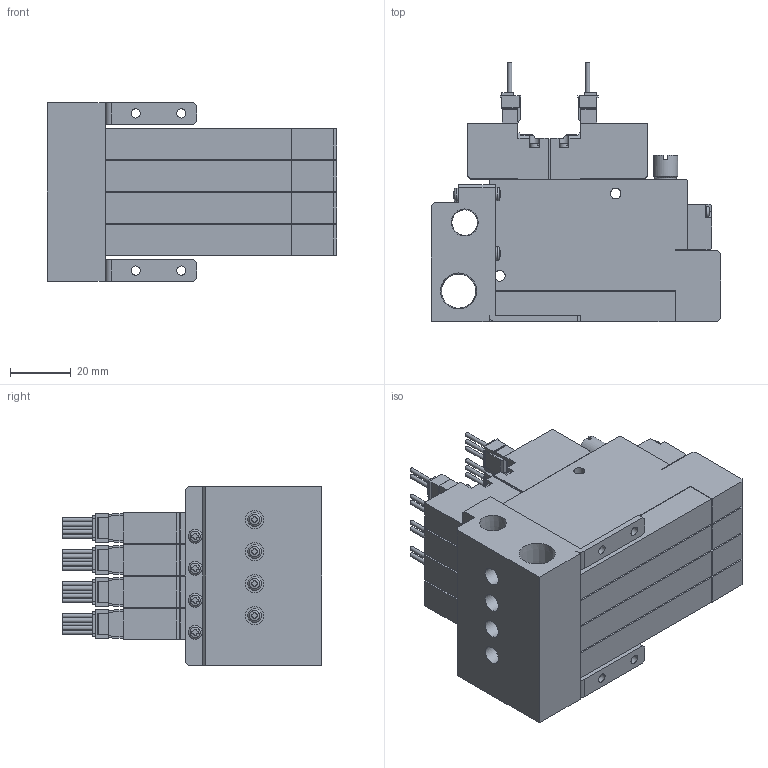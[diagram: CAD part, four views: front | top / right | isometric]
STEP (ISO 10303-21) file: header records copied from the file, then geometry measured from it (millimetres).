
FILE_DESCRIPTION(('STEP AP203'),'1');
FILE_NAME('ZZC5WC404_3D.stp','2024-09-04T13:55:49',(' '),(' '),'Spatial InterOp 3D',' ',' ');
FILE_SCHEMA(('CONFIG_CONTROL_DESIGN'));
Length unit declared in the file: millimetre
Products named in the file (5): BSC1M※※ZZC5WC404; Solenoid valve W; Pressure Sensor ZZ; Unit-C; BaseMC40R
Assembly tree (13 placements, depth 2):
  BSC1M※※ZZC5WC404
    Solenoid valve W  x4
    Pressure Sensor ZZ  x4
    Unit-C  x4
    BaseMC40R
Bounding box: 95 x 85.05 x 58.5 mm (x, y, z)
Volume: 216125.9 mm3; surface area: 75740.7 mm2
Topology: 13 solids, 13 shells, 1471 faces, 3939 edges, 2606 vertices
Faces by surface type: plane 1119, cylinder 280, cone 32, sphere 20, torus 20
Full cylindrical faces by diameter (mm): 1.4 x20, 2.5 x8, 3 x20, 3.5 x24, 4 x4, 4.134 x8, 4.5 x12, 5.5 x4, 6 x4, 7 x8, 8 x4, 8.422 x1, 11.233 x1
Entity records: 17057 total; most frequent: CARTESIAN_POINT 3786, DIRECTION 2655, ORIENTED_EDGE 2560, EDGE_CURVE 1280, VERTEX_POINT 903, AXIS2_PLACEMENT_3D 888, LINE 879, VECTOR 879
